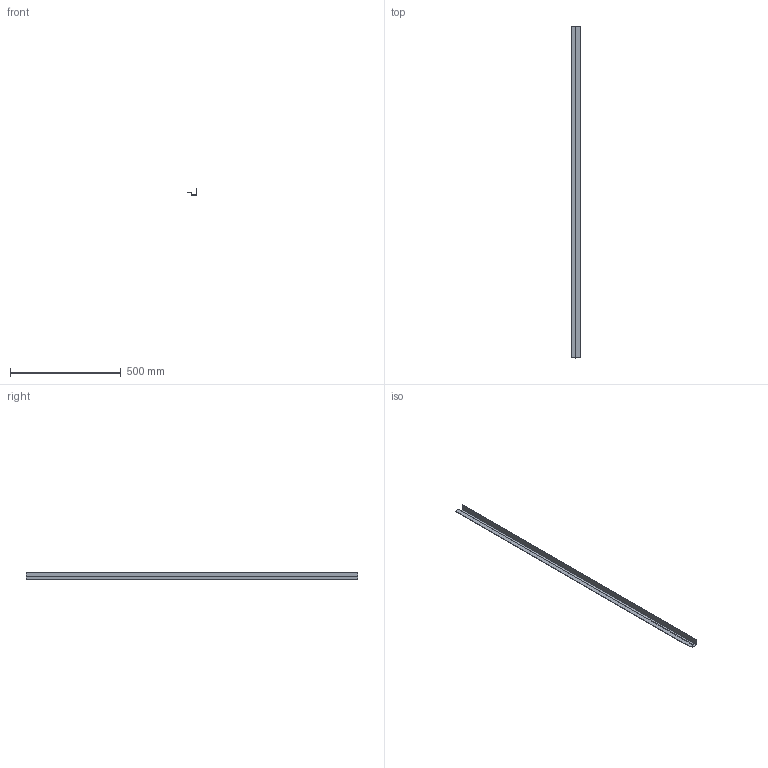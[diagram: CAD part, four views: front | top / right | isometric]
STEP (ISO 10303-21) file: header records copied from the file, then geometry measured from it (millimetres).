
FILE_DESCRIPTION( ( 'STEP AP214' ), '1' );
FILE_NAME( 'p:/temp/worker_138/temp/exporttempdir_4864_6_mTAGU/format_0/CIP33(0).stp', '2021-03-15T14:35:41', ( 'License CC BY-ND 4.0' ), ( 'CADENAS' ), ' ', 'PARTsolutions', ' ' );
FILE_SCHEMA( ( 'AUTOMOTIVE_DESIGN { 1 0 10303 214 1 1 1 1 }' ) );
Length unit declared in the file: millimetre
Products named in the file (1): _CIP33(0)
Bounding box: 45 x 1502 x 29 mm (x, y, z)
Volume: 253390 mm3; surface area: 259736 mm2
Topology: 1 solids, 1 shells, 16 faces, 42 edges, 28 vertices
Faces by surface type: plane 16
Entity records: 630 total; most frequent: CARTESIAN_POINT 87, ORIENTED_EDGE 84, DIRECTION 76, EDGE_CURVE 42, LINE 42, VECTOR 42, VERTEX_POINT 28, AXIS2_PLACEMENT_3D 17
